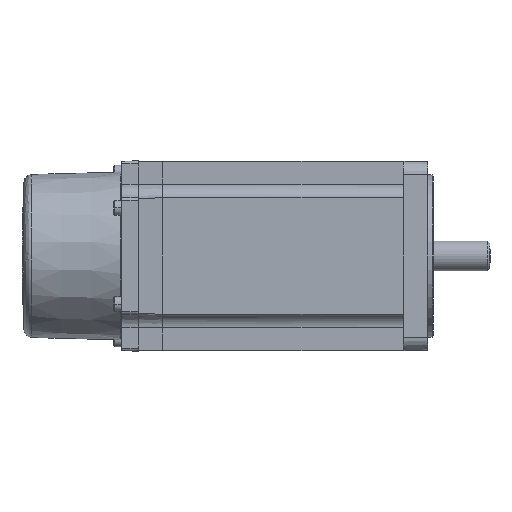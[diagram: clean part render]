
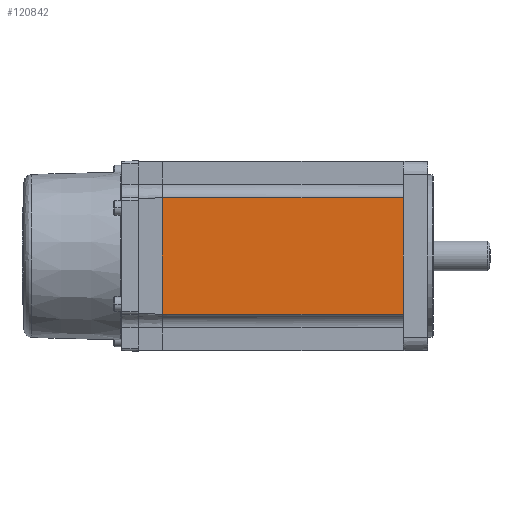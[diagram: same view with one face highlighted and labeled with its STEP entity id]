
A CAD part, front view. The second image highlights one B-rep face of the part: STEP entity #120842.
In plain terms, the highlighted planar face has unit normal (0, -1, 0) as drawn and (0, 1, 0) by its records, which use the part's own axes.
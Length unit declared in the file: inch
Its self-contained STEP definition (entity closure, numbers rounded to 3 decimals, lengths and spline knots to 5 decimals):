
#770 = DIRECTION ( 'NONE',  ( 0., 0., 1. ) ) ;
#2485 = LINE ( 'NONE', #141081, #59676 ) ;
#13404 = VERTEX_POINT ( 'NONE', #87232 ) ;
#15966 = LINE ( 'NONE', #119802, #76717 ) ;
#22317 = ORIENTED_EDGE ( 'NONE', *, *, #51404, .F. ) ;
#35756 = PLANE ( 'NONE',  #54664 ) ;
#37801 = ORIENTED_EDGE ( 'NONE', *, *, #118416, .T. ) ;
#44861 = EDGE_LOOP ( 'NONE', ( #137929, #143968, #22317, #37801 ) ) ;
#45405 = VERTEX_POINT ( 'NONE', #81520 ) ;
#51404 = EDGE_CURVE ( 'NONE', #135603, #13404, #83068, .T. ) ;
#54664 = AXIS2_PLACEMENT_3D ( 'NONE', #59211, #138913, #70702 ) ;
#59211 = CARTESIAN_POINT ( 'NONE',  ( -1.37795, 1.37795, 2.24409 ) ) ;
#59676 = VECTOR ( 'NONE', #107219, 39.37008 ) ;
#70702 = DIRECTION ( 'NONE',  ( 0., 0., 1. ) ) ;
#70738 = VECTOR ( 'NONE', #770, 39.37008 ) ;
#70951 = CARTESIAN_POINT ( 'NONE',  ( 0.84711, 1.37795, -1.25984 ) ) ;
#74348 = LINE ( 'NONE', #126011, #70738 ) ;
#75008 = DIRECTION ( 'NONE',  ( 0., 0., -1. ) ) ;
#76717 = VECTOR ( 'NONE', #119299, 39.37008 ) ;
#81520 = CARTESIAN_POINT ( 'NONE',  ( 0.84711, 1.37795, 2.24409 ) ) ;
#81771 = EDGE_CURVE ( 'NONE', #13404, #95236, #2485, .T. ) ;
#83068 = LINE ( 'NONE', #110365, #109871 ) ;
#87232 = CARTESIAN_POINT ( 'NONE',  ( -0.84711, 1.37795, -1.25984 ) ) ;
#95236 = VERTEX_POINT ( 'NONE', #70951 ) ;
#107219 = DIRECTION ( 'NONE',  ( 1., 0., 0. ) ) ;
#107312 = EDGE_CURVE ( 'NONE', #95236, #45405, #74348, .T. ) ;
#109871 = VECTOR ( 'NONE', #75008, 39.37008 ) ;
#110365 = CARTESIAN_POINT ( 'NONE',  ( -0.84711, 1.37795, 4.6063 ) ) ;
#118416 = EDGE_CURVE ( 'NONE', #135603, #45405, #15966, .T. ) ;
#118911 = FACE_OUTER_BOUND ( 'NONE', #44861, .T. ) ;
#119299 = DIRECTION ( 'NONE',  ( 1., 0., 0. ) ) ;
#119802 = CARTESIAN_POINT ( 'NONE',  ( -1.37795, 1.37795, 2.24409 ) ) ;
#120842 = ADVANCED_FACE ( 'NONE', ( #118911 ), #35756, .T. ) ;
#126011 = CARTESIAN_POINT ( 'NONE',  ( 0.84711, 1.37795, -1.25984 ) ) ;
#127359 = CARTESIAN_POINT ( 'NONE',  ( -0.84711, 1.37795, 2.24409 ) ) ;
#135603 = VERTEX_POINT ( 'NONE', #127359 ) ;
#137929 = ORIENTED_EDGE ( 'NONE', *, *, #107312, .F. ) ;
#138913 = DIRECTION ( 'NONE',  ( 0., 1., 0. ) ) ;
#141081 = CARTESIAN_POINT ( 'NONE',  ( -1.37795, 1.37795, -1.25984 ) ) ;
#143968 = ORIENTED_EDGE ( 'NONE', *, *, #81771, .F. ) ;
